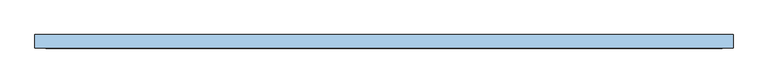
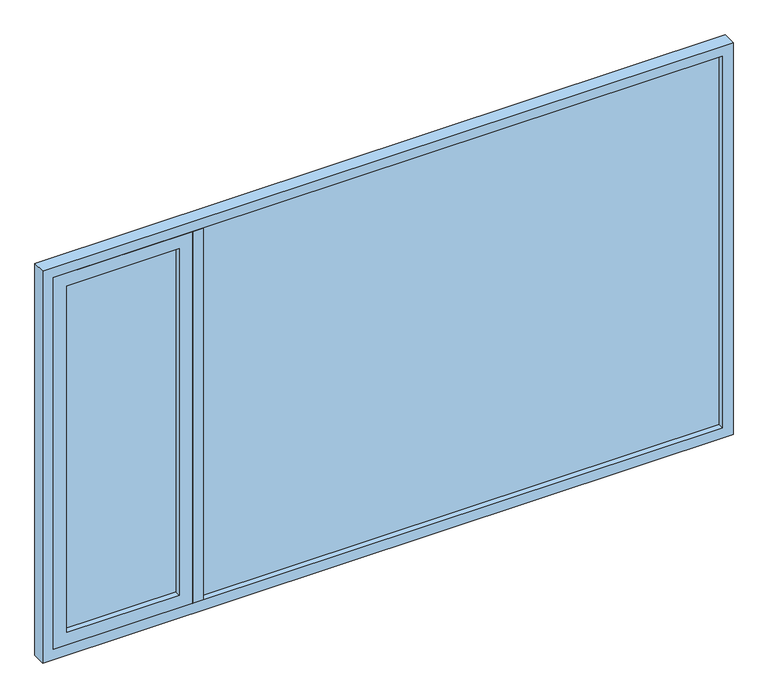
"""IFC4 building model written with IfcOpenShell, lengths in millimetres: window geometry, VENT_ALUM_PROY_LATERAL : VD-22 / PROYECC LATERALREC PH 2.58 X 1.55."""

from ifc_helpers import new_model, si_unit, frame, origin, place, context, project, spatial, polyline, outline, extrude, source, transform, mapped, element, save


def window_666a2f6a(model_context):
    return source(origin(), model_context, "Body", "SweptSolid", [
        extrude(outline(polyline([(2072.5, -3.0), (132.5, -3.0), (132.5, 3.0), (2072.5, 3.0), (2072.5, -3.0)])), frame((0.0, 0.0, 2040.0), z_axis=(0.0, 0.0, 1.0), x_axis=(1.0, 0.0, 0.0)), (0.0, 0.0, 1.0), 1470.0),
        extrude(outline(polyline([(2000.0, -467.5), (2000.0, 2112.5), (3550.0, 2112.5), (3550.0, -467.5), (2000.0, -467.5)]), holes=[polyline([(3510.0, -427.5), (3510.0, 2072.5), (2040.0, 2072.5), (2040.0, -427.5), (3510.0, -427.5)])]), frame((0.0, -25.0, 0.0), z_axis=(0.0, 1.0, 0.0), x_axis=(0.0, 0.0, 1.0)), (0.0, 0.0, 1.0), 50.0),
        extrude(outline(polyline([(92.5, 25.0), (132.5, 25.0), (132.5, -25.0), (92.5, -25.0), (92.5, 25.0)])), frame((0.0, 0.0, 2040.0), z_axis=(0.0, 0.0, 1.0), x_axis=(1.0, 0.0, 0.0)), (0.0, 0.0, 1.0), 1470.0),
        extrude(outline(polyline([(42.5, -3.0), (-377.5, -3.0), (-377.5, 3.0), (42.5, 3.0), (42.5, -3.0)])), frame((0.0, 0.0, 2080.0), z_axis=(0.0, 0.0, 1.0), x_axis=(1.0, 0.0, 0.0)), (0.0, 0.0, 1.0), 1380.0),
        extrude(outline(polyline([(2040.0, -427.5), (2040.0, 92.5), (3510.0, 92.5), (3510.0, -427.5), (2040.0, -427.5)]), holes=[polyline([(3460.0, -377.5), (3460.0, 42.5), (2090.0, 42.5), (2090.0, -377.5), (3460.0, -377.5)])]), frame((0.0, -25.0, 0.0), z_axis=(0.0, 1.0, 0.0), x_axis=(0.0, 0.0, 1.0)), (0.0, 0.0, 1.0), 50.0),
    ])


if __name__ == "__main__":
    model = new_model("IFC4")
    model_context = context("Model", 3, world=origin())
    ifc_project = project(units=[si_unit("LENGTHUNIT", "METRE", prefix="MILLI")], contexts=[model_context])
    site = spatial("IfcSite", under=ifc_project)
    building = spatial("IfcBuilding", under=site)
    placement = place(None, origin())
    window_shape = window_666a2f6a(model_context)
    element("IfcWindow", 1, ObjectType="VENT_ALUM_PROY_LATERAL : VD-22 / PROYECC LATERALREC PH 2.58 X 1.55", at=placement, inside=building, context=model_context, shape_type="MappedRepresentation", body=[
        mapped(window_shape, transform((0.0, 0.0, 0.0), x_axis=(1.0, 0.0, 0.0), y_axis=(0.0, 1.0, 0.0), z_axis=(0.0, 0.0, 1.0))),
    ])
    save(model, "model.ifc")
